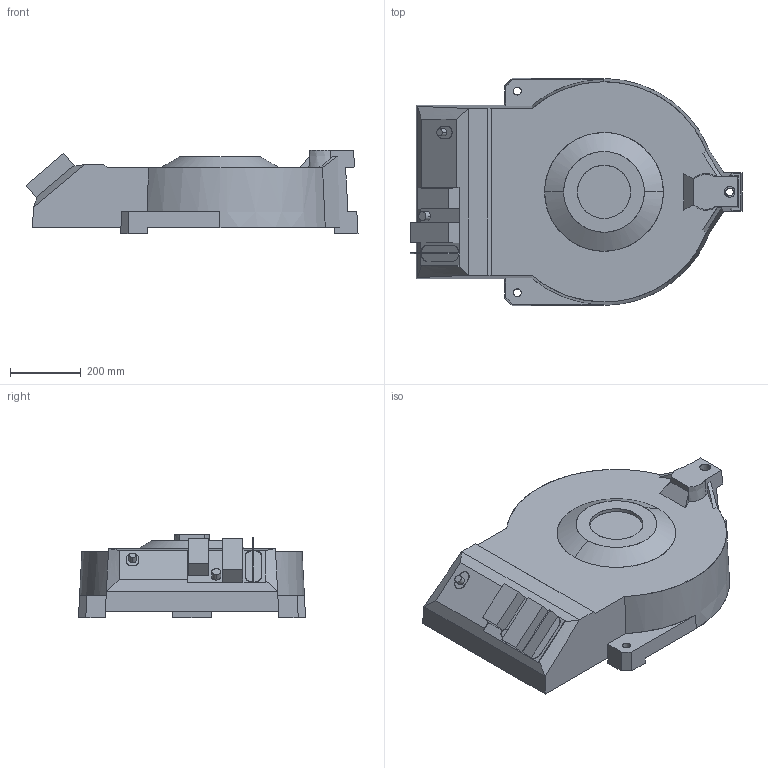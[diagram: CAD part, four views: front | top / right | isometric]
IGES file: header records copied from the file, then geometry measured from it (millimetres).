
Start section: SolidWorks IGES file using analytic representation for surfaces
Global section: file name: C:\Users\sefaane2\Downloads\Sparad modell IRB4400 10\Final SolidWorks CADSIM models and .txt file\Macro\Macro_IRC5_IGES_j\IRB4400_L10-253_IRC5_rev03_BASE_CAD.IGS; native system: SolidWorks 2014; preprocessor: SolidWorks 2014; author: SEFAANE2; date: 161103.132502; units: millimetre
Bounding box: 938.26 x 641.78 x 237 mm (x, y, z)
Surface area: 1477031.1 mm2 (no closed solid volume)
Topology: 0 solids, 0 shells, 117 faces, 1917 edges, 1915 vertices
Faces by surface type: bspline 82, revolution 35
